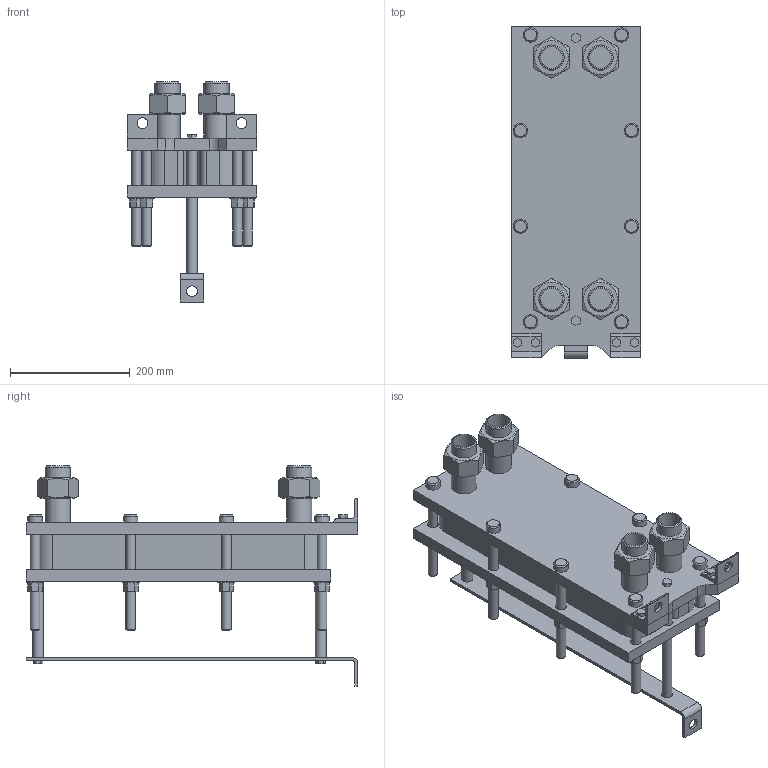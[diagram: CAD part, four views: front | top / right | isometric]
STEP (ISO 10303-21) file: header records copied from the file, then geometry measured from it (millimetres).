
FILE_DESCRIPTION(/* description */ (''),/* implementation_level */ '2;1');
FILE_NAME(/* name */ 'C:\Users\zhuro\Desktop\ENCO\TO\ЭН-004\ЭН-0,5-004-19-1.stp',/* time_stamp */ '2022-06-06T10:45:06+03:00',/* author */ ('zhuro'),/* organization */ (''),/* preprocessor_version */ 'ST-DEVELOPER v18.1',/* originating_system */ 'Autodesk Inventor 2022',/* authorisation */ '');
FILE_SCHEMA (('AUTOMOTIVE_DESIGN { 1 0 10303 214 3 1 1 }'));
Length unit declared in the file: millimetre
Products named in the file (1): ЭН-0,5-004-19-1
Bounding box: 216 x 555 x 368.2 mm (x, y, z)
Volume: 9887443.1 mm3; surface area: 1086669.2 mm2
Topology: 40 solids, 40 shells, 403 faces, 865 edges, 574 vertices
Faces by surface type: plane 272, cylinder 103, cone 28
Full cylindrical faces by diameter (mm): 10 x4, 16 x16, 18 x29, 20 x2, 24 x8, 28 x8, 36.3 x5, 42.3 x9
Entity records: 11137 total; most frequent: CARTESIAN_POINT 1939, DIRECTION 1879, ORIENTED_EDGE 1730, EDGE_CURVE 865, AXIS2_PLACEMENT_3D 658, VERTEX_POINT 574, LINE 563, VECTOR 563
